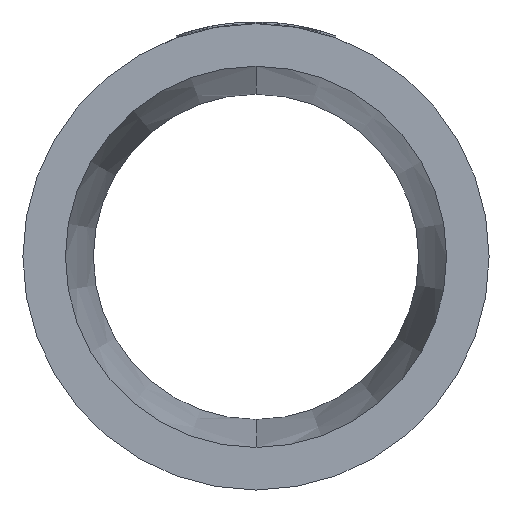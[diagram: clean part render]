
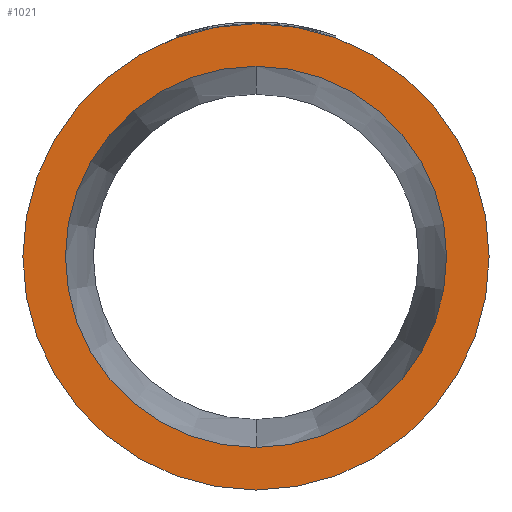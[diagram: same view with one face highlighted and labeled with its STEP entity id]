
A CAD part, left-side view. The second image highlights one B-rep face of the part: STEP entity #1021.
In plain terms, the highlighted planar face has unit normal (-1, 0, 0).
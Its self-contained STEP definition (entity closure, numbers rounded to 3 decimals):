
#96 = DIRECTION ( 'NONE',  ( 0., 0., 1. ) ) ;
#405 = DIRECTION ( 'NONE',  ( 0., 0., 1. ) ) ;
#412 = DIRECTION ( 'NONE',  ( -1., 0., 0. ) ) ;
#422 = CARTESIAN_POINT ( 'NONE',  ( 0., 0., 0. ) ) ;
#482 = EDGE_CURVE ( 'NONE', #2432, #2676, #2290, .T. ) ;
#575 = EDGE_CURVE ( 'NONE', #2291, #1727, #2151, .T. ) ;
#682 = CIRCLE ( 'NONE', #2886, 51.1 ) ;
#795 = CIRCLE ( 'NONE', #2836, 62.5 ) ;
#903 = DIRECTION ( 'NONE',  ( -1., 0., 0. ) ) ;
#929 = CARTESIAN_POINT ( 'NONE',  ( 0., 0., 0. ) ) ;
#944 = EDGE_CURVE ( 'NONE', #1727, #2291, #682, .T. ) ;
#951 = EDGE_CURVE ( 'NONE', #2676, #2432, #795, .T. ) ;
#1012 = DIRECTION ( 'NONE',  ( 0., 0., 1. ) ) ;
#1021 = ADVANCED_FACE ( 'NONE', ( #2932, #2727 ), #2360, .F. ) ;
#1023 = DIRECTION ( 'NONE',  ( -1., 0., 0. ) ) ;
#1039 = CARTESIAN_POINT ( 'NONE',  ( 0., 0., 0. ) ) ;
#1323 = CARTESIAN_POINT ( 'NONE',  ( 0., 0., 62.5 ) ) ;
#1361 = CARTESIAN_POINT ( 'NONE',  ( 0., 0., -62.5 ) ) ;
#1461 = CARTESIAN_POINT ( 'NONE',  ( 0., 0., -51.1 ) ) ;
#1727 = VERTEX_POINT ( 'NONE', #1991 ) ;
#1782 = EDGE_LOOP ( 'NONE', ( #2681, #2693 ) ) ;
#1844 = AXIS2_PLACEMENT_3D ( 'NONE', #3285, #3273, #96 ) ;
#1905 = AXIS2_PLACEMENT_3D ( 'NONE', #422, #412, #405 ) ;
#1991 = CARTESIAN_POINT ( 'NONE',  ( 0., 0., 51.1 ) ) ;
#2040 = AXIS2_PLACEMENT_3D ( 'NONE', #2268, #2249, #2237 ) ;
#2151 = CIRCLE ( 'NONE', #1844, 51.1 ) ;
#2237 = DIRECTION ( 'NONE',  ( 0., 0., -1. ) ) ;
#2249 = DIRECTION ( 'NONE',  ( 1., 0., 0. ) ) ;
#2268 = CARTESIAN_POINT ( 'NONE',  ( 0., 51.1, 0. ) ) ;
#2290 = CIRCLE ( 'NONE', #1905, 62.5 ) ;
#2291 = VERTEX_POINT ( 'NONE', #1461 ) ;
#2360 = PLANE ( 'NONE',  #2040 ) ;
#2432 = VERTEX_POINT ( 'NONE', #1323 ) ;
#2676 = VERTEX_POINT ( 'NONE', #1361 ) ;
#2681 = ORIENTED_EDGE ( 'NONE', *, *, #944, .F. ) ;
#2693 = ORIENTED_EDGE ( 'NONE', *, *, #575, .F. ) ;
#2719 = ORIENTED_EDGE ( 'NONE', *, *, #482, .T. ) ;
#2727 = FACE_OUTER_BOUND ( 'NONE', #2975, .T. ) ;
#2761 = ORIENTED_EDGE ( 'NONE', *, *, #951, .T. ) ;
#2836 = AXIS2_PLACEMENT_3D ( 'NONE', #929, #903, #3049 ) ;
#2886 = AXIS2_PLACEMENT_3D ( 'NONE', #1039, #1023, #1012 ) ;
#2932 = FACE_BOUND ( 'NONE', #1782, .T. ) ;
#2975 = EDGE_LOOP ( 'NONE', ( #2719, #2761 ) ) ;
#3049 = DIRECTION ( 'NONE',  ( 0., 0., 1. ) ) ;
#3273 = DIRECTION ( 'NONE',  ( -1., 0., 0. ) ) ;
#3285 = CARTESIAN_POINT ( 'NONE',  ( 0., 0., 0. ) ) ;
